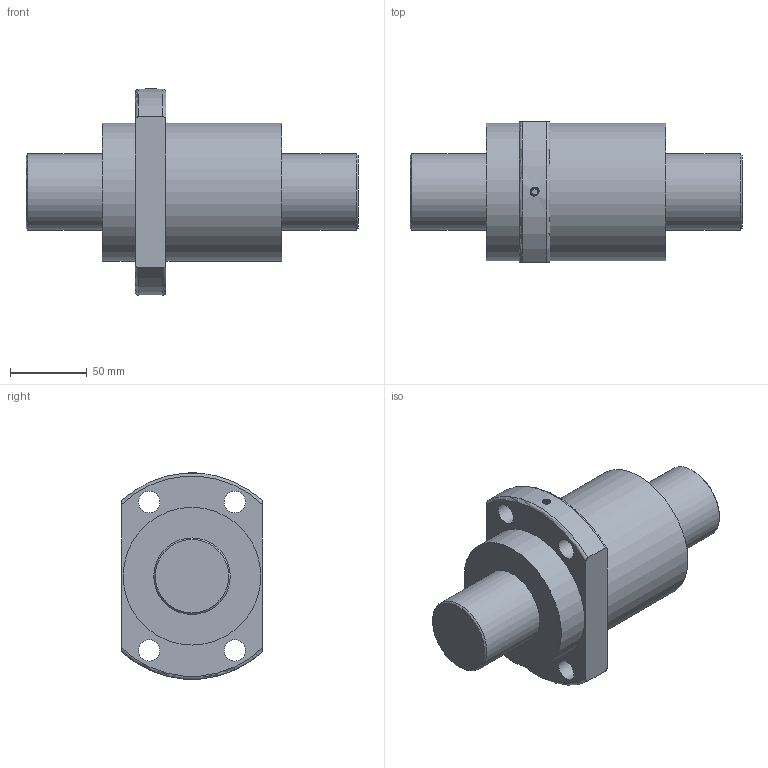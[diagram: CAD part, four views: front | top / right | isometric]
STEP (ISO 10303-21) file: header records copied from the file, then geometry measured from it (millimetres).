
FILE_DESCRIPTION(/* description */ ('Unknown','CAx-IF Rec.Pracs.---Representation and Presentation of Product Manufacturing Information (PMI)---4.0---2014-10-13','CAx-IF Rec.Pracs.---3D Tessellated Geometry---0.4---2014-09-14','2;1'),/* implementation_level */ '2;1');
FILE_NAME(/* name */ 'SFY5050-3.6',/* time_stamp */ '2020-12-06T18:35:13+08:00',/* author */ ('Unknown'),/* organization */ ('Unknown'),/* preprocessor_version */ 'ST-DEVELOPER v16.7',/* originating_system */ 'Solid Edge',/* authorisation */ 'Unknown');
FILE_SCHEMA (('AP242_MANAGED_MODEL_BASED_3D_ENGINEERING_MIM_LF { 1 0 10303 442 1 1 4 }'));
Length unit declared in the file: millimetre
Products named in the file (1): SFY5050-3
Bounding box: 217 x 92 x 134.77 mm (x, y, z)
Volume: 1027571 mm3; surface area: 76253 mm2
Topology: 1 solids, 1 shells, 32 faces, 78 edges, 53 vertices
Faces by surface type: cylinder 13, plane 10, torus 4, cone 3, bspline 2
Full cylindrical faces by diameter (mm): 4 x1, 14 x4, 50 x2, 90 x2
Entity records: 3223 total; most frequent: CARTESIAN_POINT 2501, DIRECTION 138, ORIENTED_EDGE 114, AXIS2_PLACEMENT_3D 66, EDGE_CURVE 57, EDGE_LOOP 57, FACE_BOUND 57, VERTEX_POINT 44
